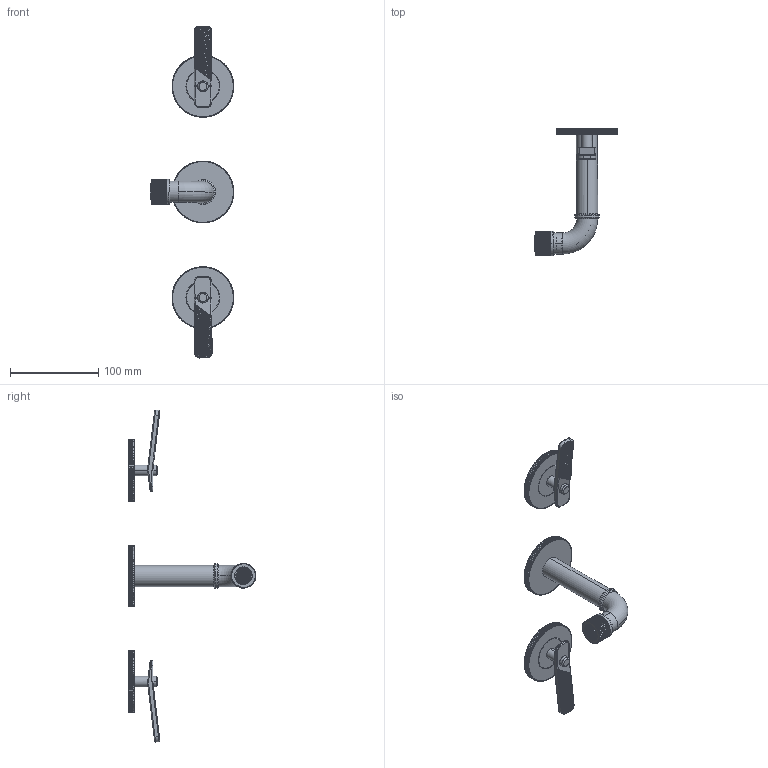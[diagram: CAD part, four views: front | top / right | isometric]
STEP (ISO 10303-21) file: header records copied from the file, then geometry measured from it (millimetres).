
FILE_DESCRIPTION (( 'STEP AP214' ), '1' );
FILE_NAME ('79325710 x architetti.STEP', '2024-11-22T13:44:53', ( '' ), ( '' ), 'SwSTEP 2.0', 'SolidWorks 2020', '' );
FILE_SCHEMA (( 'AUTOMOTIVE_DESIGN' ));
Length unit declared in the file: millimetre
Products named in the file (3): 79325710 x architetti; 793257 x architetti; F0007799
Assembly tree (2 placements, depth 2):
  79325710 x architetti
    793257 x architetti
    F0007799
Bounding box: 94.73 x 144.75 x 376.43 mm (x, y, z)
Volume: 181553.2 mm3; surface area: 75861.3 mm2
Topology: 10 solids, 13 shells, 4714 faces, 12145 edges, 8035 vertices
Faces by surface type: plane 3105, cylinder 1141, torus 371, bspline 79, cone 14, sphere 4
Entity records: 176790 total; most frequent: CARTESIAN_POINT 44378, ORIENTED_EDGE 24288, DIRECTION 22561, EDGE_CURVE 12144, VERTEX_POINT 8035, AXIS2_PLACEMENT_3D 7874, VECTOR 6813, LINE 6813
